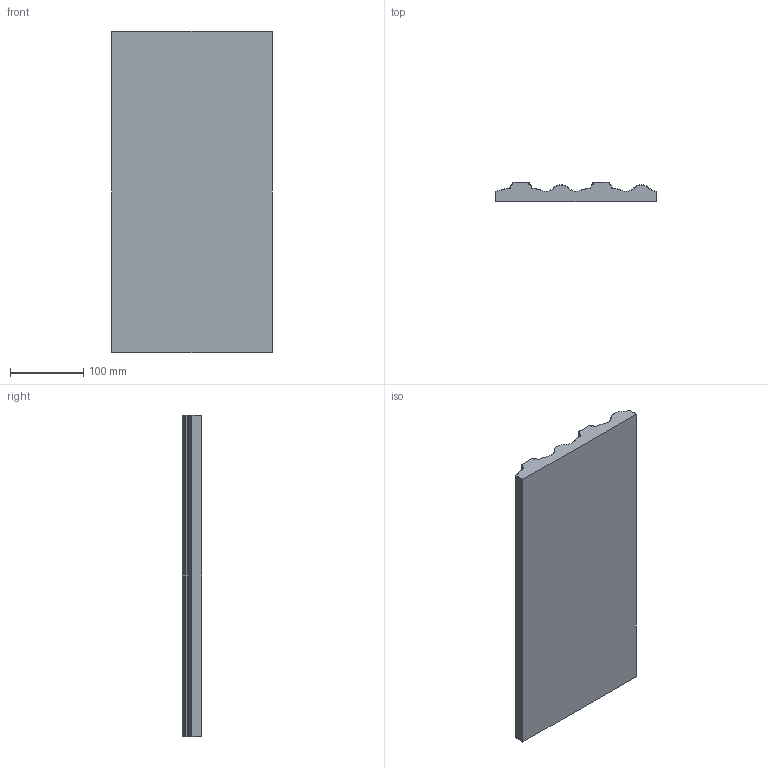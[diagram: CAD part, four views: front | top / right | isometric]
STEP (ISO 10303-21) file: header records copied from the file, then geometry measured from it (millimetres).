
FILE_DESCRIPTION (( 'STEP AP214' ), '1' );
FILE_NAME ('Jazz_44x22_STEP.STEP', '2022-06-01T13:52:18', ( '' ), ( '' ), 'SwSTEP 2.0', 'SolidWorks 2020', '' );
FILE_SCHEMA (( 'AUTOMOTIVE_DESIGN' ));
Length unit declared in the file: millimetre
Products named in the file (1): Jazz_44x22_STEP
Bounding box: 220 x 26.5 x 440 mm (x, y, z)
Volume: 1894766.9 mm3; surface area: 228910.7 mm2
Topology: 1 solids, 1 shells, 123 faces, 281 edges, 160 vertices
Faces by surface type: cylinder 52, torus 52, plane 15, sphere 4
Entity records: 3535 total; most frequent: DIRECTION 703, CARTESIAN_POINT 621, ORIENTED_EDGE 562, AXIS2_PLACEMENT_3D 306, EDGE_CURVE 281, CIRCLE 182, VERTEX_POINT 160, EDGE_LOOP 123
